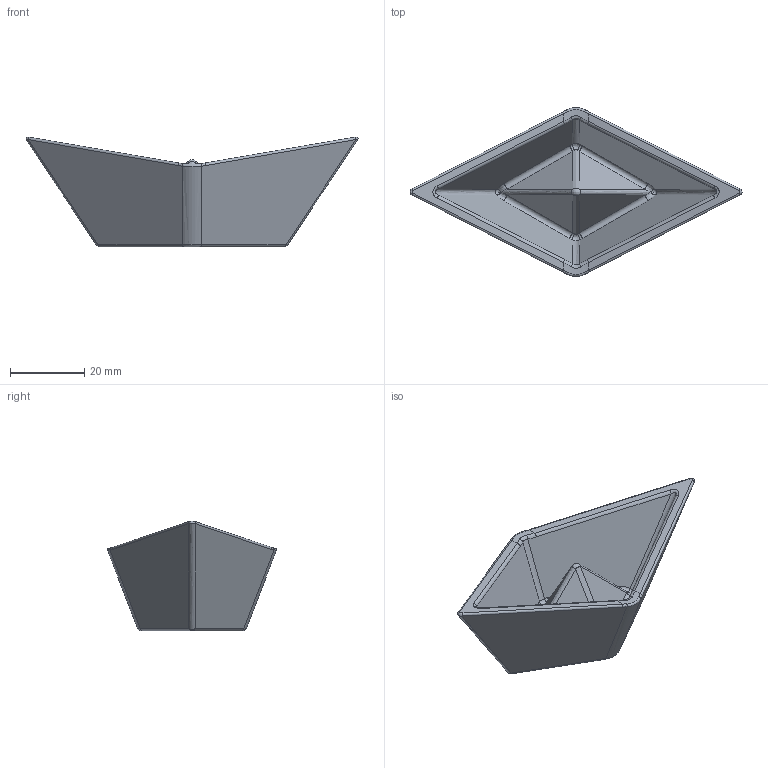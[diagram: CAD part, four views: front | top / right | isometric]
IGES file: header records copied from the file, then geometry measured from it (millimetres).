
Global section: file name: C:\Users\mveid\Desktop\Schiff.igs; native system: NX V8.0; preprocessor: SIEMENS PLM Software NX 8.0; date: 20140603.160330; units: millimetre
Bounding box: 89.48 x 45.49 x 29.63 mm (x, y, z)
Surface area: 10099.8 mm2 (no closed solid volume)
Topology: 0 solids, 0 shells, 95 faces, 445 edges, 449 vertices
Faces by surface type: bspline 95
